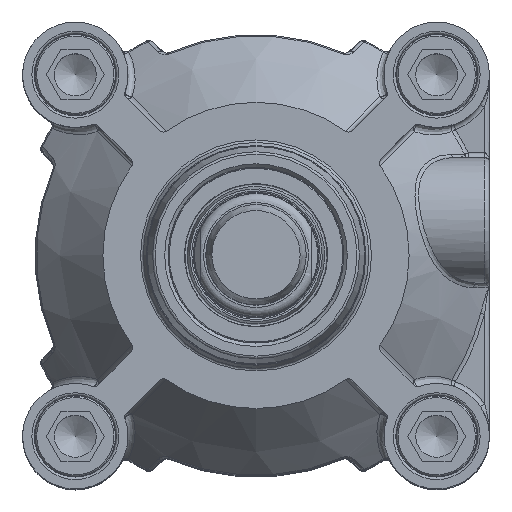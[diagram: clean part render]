
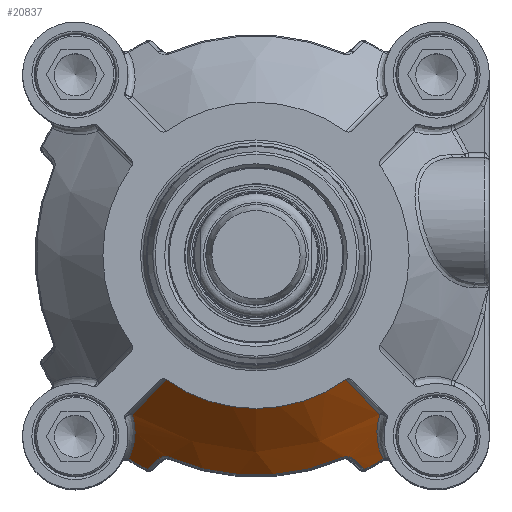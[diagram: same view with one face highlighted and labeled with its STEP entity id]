
A CAD part, top view. The second image highlights one B-rep face of the part: STEP entity #20837.
In plain terms, the highlighted conical face has half-angle 41.186 degrees and reference radius 39.25 mm.
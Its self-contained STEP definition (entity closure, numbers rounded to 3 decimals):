
#769=B_SPLINE_CURVE_WITH_KNOTS('',3,(#34224,#34225,#34226,#34227),
 .UNSPECIFIED.,.F.,.F.,(4,4),(-2.136,-0.67),
 .UNSPECIFIED.);
#773=B_SPLINE_CURVE_WITH_KNOTS('',3,(#34314,#34315,#34316,#34317,#34318,
#34319,#34320,#34321,#34322,#34323,#34324,#34325),.UNSPECIFIED.,.F.,.F.,
(4,2,2,2,2,4),(-9.907,-9.742,-9.546,-9.184,
-9.153,-8.641),.UNSPECIFIED.);
#775=B_SPLINE_CURVE_WITH_KNOTS('',3,(#34369,#34370,#34371,#34372,#34373),
 .UNSPECIFIED.,.F.,.F.,(4,1,4),(-0.275,-0.118,0.),
 .UNSPECIFIED.);
#778=B_SPLINE_CURVE_WITH_KNOTS('',3,(#34424,#34425,#34426,#34427,#34428,
#34429),.UNSPECIFIED.,.F.,.F.,(4,1,1,4),(-0.275,-0.196,
-0.118,0.),.UNSPECIFIED.);
#779=B_SPLINE_CURVE_WITH_KNOTS('',3,(#34461,#34462,#34463,#34464),
 .UNSPECIFIED.,.F.,.F.,(4,4),(-1.397,-0.961),
 .UNSPECIFIED.);
#783=B_SPLINE_CURVE_WITH_KNOTS('',3,(#34548,#34549,#34550,#34551,#34552,
#34553,#34554,#34555,#34556,#34557),.UNSPECIFIED.,.F.,.F.,(4,2,2,2,4),(-9.659,
-9.148,-9.117,-8.494,-8.394),
 .UNSPECIFIED.);
#786=B_SPLINE_CURVE_WITH_KNOTS('',3,(#34587,#34588,#34589,#34590),
 .UNSPECIFIED.,.F.,.F.,(4,4),(-1.511,-0.046),
 .UNSPECIFIED.);
#787=B_SPLINE_CURVE_WITH_KNOTS('',3,(#34626,#34627,#34628,#34629),
 .UNSPECIFIED.,.F.,.F.,(4,4),(-2.9,-2.464),
 .UNSPECIFIED.);
#4769=FACE_OUTER_BOUND('',#6253,.T.);
#6253=EDGE_LOOP('',(#14923,#14924,#14925,#14926,#14927,#14928,#14929,#14930,
#14931,#14932,#14933,#14934));
#7706=CIRCLE('',#22530,30.5);
#7728=CIRCLE('',#22562,47.753);
#7734=CIRCLE('',#22569,43.753);
#7741=CIRCLE('',#22578,47.753);
#9079=VERTEX_POINT('',#34091);
#9080=VERTEX_POINT('',#34104);
#9101=VERTEX_POINT('',#34196);
#9104=VERTEX_POINT('',#34253);
#9111=VERTEX_POINT('',#34336);
#9112=VERTEX_POINT('',#34367);
#9113=VERTEX_POINT('',#34368);
#9118=VERTEX_POINT('',#34421);
#9119=VERTEX_POINT('',#34423);
#9122=VERTEX_POINT('',#34438);
#9125=VERTEX_POINT('',#34492);
#9129=VERTEX_POINT('',#34510);
#11202=EDGE_CURVE('',#9079,#9080,#7706,.T.);
#11228=EDGE_CURVE('',#9080,#9101,#769,.T.);
#11237=EDGE_CURVE('',#9101,#9104,#773,.T.);
#11242=EDGE_CURVE('',#9104,#9111,#7728,.T.);
#11244=EDGE_CURVE('',#9112,#9113,#775,.T.);
#11250=EDGE_CURVE('',#9118,#9119,#778,.T.);
#11252=EDGE_CURVE('',#9113,#9118,#7734,.T.);
#11257=EDGE_CURVE('',#9119,#9122,#779,.T.);
#11263=EDGE_CURVE('',#9122,#9125,#7741,.T.);
#11268=EDGE_CURVE('',#9125,#9129,#783,.T.);
#11271=EDGE_CURVE('',#9129,#9079,#786,.T.);
#11280=EDGE_CURVE('',#9111,#9112,#787,.T.);
#14923=ORIENTED_EDGE('',*,*,#11271,.F.);
#14924=ORIENTED_EDGE('',*,*,#11268,.F.);
#14925=ORIENTED_EDGE('',*,*,#11263,.F.);
#14926=ORIENTED_EDGE('',*,*,#11257,.F.);
#14927=ORIENTED_EDGE('',*,*,#11250,.F.);
#14928=ORIENTED_EDGE('',*,*,#11252,.F.);
#14929=ORIENTED_EDGE('',*,*,#11244,.F.);
#14930=ORIENTED_EDGE('',*,*,#11280,.F.);
#14931=ORIENTED_EDGE('',*,*,#11242,.F.);
#14932=ORIENTED_EDGE('',*,*,#11237,.F.);
#14933=ORIENTED_EDGE('',*,*,#11228,.F.);
#14934=ORIENTED_EDGE('',*,*,#11202,.F.);
#18953=CONICAL_SURFACE('',#22591,39.25,41.186);
#20837=ADVANCED_FACE('',(#4769),#18953,.T.);
#22530=AXIS2_PLACEMENT_3D('',#34105,#25589,#25590);
#22562=AXIS2_PLACEMENT_3D('',#34340,#25661,#25662);
#22569=AXIS2_PLACEMENT_3D('',#34432,#25675,#25676);
#22578=AXIS2_PLACEMENT_3D('',#34504,#25693,#25694);
#22591=AXIS2_PLACEMENT_3D('',#34640,#25727,#25728);
#25589=DIRECTION('center_axis',(0.,0.,1.));
#25590=DIRECTION('ref_axis',(1.,0.,0.));
#25661=DIRECTION('center_axis',(0.,0.,-1.));
#25662=DIRECTION('ref_axis',(0.496,-0.868,0.));
#25675=DIRECTION('center_axis',(0.,0.,-1.));
#25676=DIRECTION('ref_axis',(0.,-1.,0.));
#25693=DIRECTION('center_axis',(0.,0.,-1.));
#25694=DIRECTION('ref_axis',(-0.496,-0.868,0.));
#25727=DIRECTION('center_axis',(0.,0.,-1.));
#25728=DIRECTION('ref_axis',(0.707,-0.707,0.));
#34091=CARTESIAN_POINT('',(-17.839,-24.739,48.));
#34104=CARTESIAN_POINT('',(17.839,-24.739,48.));
#34105=CARTESIAN_POINT('Origin',(0.,0.,48.));
#34196=CARTESIAN_POINT('',(24.679,-31.619,37.017));
#34224=CARTESIAN_POINT('Ctrl Pts',(17.839,-24.739,48.));
#34225=CARTESIAN_POINT('Ctrl Pts',(20.12,-27.038,44.344));
#34226=CARTESIAN_POINT('Ctrl Pts',(22.4,-29.33,40.682));
#34227=CARTESIAN_POINT('Ctrl Pts',(24.679,-31.619,37.017));
#34253=CARTESIAN_POINT('',(25.31,-40.494,28.283));
#34314=CARTESIAN_POINT('Ctrl Pts',(24.679,-31.619,37.017));
#34315=CARTESIAN_POINT('Ctrl Pts',(24.529,-32.061,36.725));
#34316=CARTESIAN_POINT('Ctrl Pts',(24.411,-32.499,36.407));
#34317=CARTESIAN_POINT('Ctrl Pts',(24.215,-33.432,35.682));
#34318=CARTESIAN_POINT('Ctrl Pts',(24.146,-33.931,35.263));
#34319=CARTESIAN_POINT('Ctrl Pts',(24.042,-35.324,34.028));
#34320=CARTESIAN_POINT('Ctrl Pts',(24.082,-36.195,33.174));
#34321=CARTESIAN_POINT('Ctrl Pts',(24.218,-37.092,32.231));
#34322=CARTESIAN_POINT('Ctrl Pts',(24.23,-37.162,32.157));
#34323=CARTESIAN_POINT('Ctrl Pts',(24.439,-38.391,30.849));
#34324=CARTESIAN_POINT('Ctrl Pts',(24.805,-39.485,29.566));
#34325=CARTESIAN_POINT('Ctrl Pts',(25.31,-40.494,28.283));
#34336=CARTESIAN_POINT('',(21.697,-42.539,28.283));
#34340=CARTESIAN_POINT('Origin',(0.,0.,28.283));
#34367=CARTESIAN_POINT('',(19.482,-40.531,31.462));
#34368=CARTESIAN_POINT('',(17.312,-40.182,32.854));
#34369=CARTESIAN_POINT('Ctrl Pts',(19.482,-40.531,31.462));
#34370=CARTESIAN_POINT('Ctrl Pts',(19.216,-40.29,31.843));
#34371=CARTESIAN_POINT('Ctrl Pts',(18.605,-39.949,32.497));
#34372=CARTESIAN_POINT('Ctrl Pts',(17.679,-40.024,32.854));
#34373=CARTESIAN_POINT('Ctrl Pts',(17.312,-40.182,32.854));
#34421=CARTESIAN_POINT('',(-17.312,-40.182,32.854));
#34423=CARTESIAN_POINT('',(-19.482,-40.531,31.462));
#34424=CARTESIAN_POINT('Ctrl Pts',(-17.312,-40.182,
32.854));
#34425=CARTESIAN_POINT('Ctrl Pts',(-17.556,-40.077,
32.854));
#34426=CARTESIAN_POINT('Ctrl Pts',(-18.082,-39.971,32.721));
#34427=CARTESIAN_POINT('Ctrl Pts',(-18.87,-40.098,32.211));
#34428=CARTESIAN_POINT('Ctrl Pts',(-19.282,-40.35,31.748));
#34429=CARTESIAN_POINT('Ctrl Pts',(-19.482,-40.531,31.462));
#34432=CARTESIAN_POINT('Origin',(0.,0.,32.854));
#34438=CARTESIAN_POINT('',(-21.697,-42.539,28.283));
#34461=CARTESIAN_POINT('Ctrl Pts',(-19.482,-40.531,
31.462));
#34462=CARTESIAN_POINT('Ctrl Pts',(-20.223,-41.202,
30.405));
#34463=CARTESIAN_POINT('Ctrl Pts',(-20.961,-41.871,
29.345));
#34464=CARTESIAN_POINT('Ctrl Pts',(-21.697,-42.539,
28.283));
#34492=CARTESIAN_POINT('',(-25.31,-40.494,28.283));
#34504=CARTESIAN_POINT('Origin',(0.,0.,28.283));
#34510=CARTESIAN_POINT('',(-24.679,-31.619,37.017));
#34548=CARTESIAN_POINT('Ctrl Pts',(-25.31,-40.494,28.283));
#34549=CARTESIAN_POINT('Ctrl Pts',(-24.803,-39.481,
29.571));
#34550=CARTESIAN_POINT('Ctrl Pts',(-24.44,-38.386,
30.851));
#34551=CARTESIAN_POINT('Ctrl Pts',(-24.23,-37.16,32.157));
#34552=CARTESIAN_POINT('Ctrl Pts',(-24.219,-37.09,
32.232));
#34553=CARTESIAN_POINT('Ctrl Pts',(-23.991,-35.595,
33.806));
#34554=CARTESIAN_POINT('Ctrl Pts',(-24.021,-34.038,35.274));
#34555=CARTESIAN_POINT('Ctrl Pts',(-24.51,-32.149,
36.656));
#34556=CARTESIAN_POINT('Ctrl Pts',(-24.588,-31.885,36.841));
#34557=CARTESIAN_POINT('Ctrl Pts',(-24.679,-31.619,
37.017));
#34587=CARTESIAN_POINT('Ctrl Pts',(-24.679,-31.619,
37.017));
#34588=CARTESIAN_POINT('Ctrl Pts',(-22.4,-29.33,
40.682));
#34589=CARTESIAN_POINT('Ctrl Pts',(-20.12,-27.038,
44.344));
#34590=CARTESIAN_POINT('Ctrl Pts',(-17.839,-24.739,
48.));
#34626=CARTESIAN_POINT('Ctrl Pts',(21.697,-42.539,28.283));
#34627=CARTESIAN_POINT('Ctrl Pts',(20.961,-41.871,29.345));
#34628=CARTESIAN_POINT('Ctrl Pts',(20.223,-41.202,30.405));
#34629=CARTESIAN_POINT('Ctrl Pts',(19.482,-40.531,31.462));
#34640=CARTESIAN_POINT('Origin',(0.,0.,38.));
